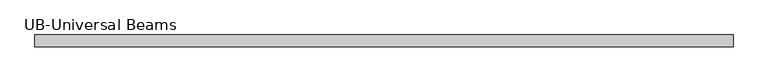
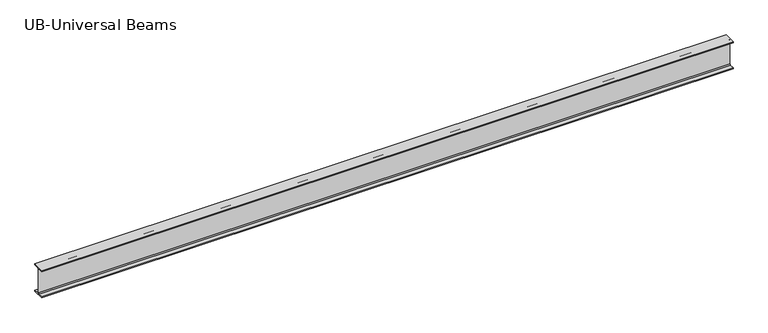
"""IFC4 building model written with IfcOpenShell, lengths in millimetres: beam geometry."""

from ifc_helpers import new_model, si_unit, point, frame, frame_2d, origin, place, context, project, spatial, polyline, circle_curve, trimmed, segment, composite_curve, outline, extrude, source, transform, mapped, element, save


def ub_universal_beams_f823aa85(model_context):
    return source(origin(), model_context, "Body", "SweptSolid", [
        extrude(outline(composite_curve([segment(polyline([(61.7, -141.5), (61.7, -152.2), (-61.7, -152.2), (-61.7, -141.5), (-12.45, -141.5)]), True, "CONTINUOUS"), segment(trimmed(circle_curve(frame_2d((-12.45, -132.6)), 8.9), [point((-12.45, -141.5))], [point((-3.55, -132.6))], True, "CARTESIAN"), True, "CONTINUOUS"), segment(polyline([(-3.55, -132.6), (-3.55, 132.6)]), True, "CONTINUOUS"), segment(trimmed(circle_curve(frame_2d((-12.45, 132.6)), 8.9), [point((-3.55, 132.6))], [point((-12.45, 141.5))], True, "CARTESIAN"), True, "CONTINUOUS"), segment(polyline([(-12.45, 141.5), (-61.7, 141.5), (-61.7, 152.2), (61.7, 152.2), (61.7, 141.5), (12.45, 141.5)]), True, "CONTINUOUS"), segment(trimmed(circle_curve(frame_2d((12.45, 132.6)), 8.9), [point((12.45, 141.5))], [point((3.55, 132.6))], True, "CARTESIAN"), True, "CONTINUOUS"), segment(polyline([(3.55, 132.6), (3.55, -132.6)]), True, "CONTINUOUS"), segment(trimmed(circle_curve(frame_2d((12.45, -132.6)), 8.9), [point((3.55, -132.6))], [point((12.45, -141.5))], True, "CARTESIAN"), True, "CONTINUOUS"), segment(polyline([(12.45, -141.5), (61.7, -141.5)]), True, "CONTINUOUS")], self_intersect=False)), frame((-3660.4, 0.0, 0.0), z_axis=(1.0, 0.0, 0.0), x_axis=(0.0, 1.0, 0.0)), (0.0, 0.0, 1.0), 7320.8),
    ])


if __name__ == "__main__":
    model = new_model("IFC4")
    model_context = context("Model", 3, world=origin())
    ifc_project = project(units=[si_unit("LENGTHUNIT", "METRE", prefix="MILLI")], contexts=[model_context])
    site = spatial("IfcSite", under=ifc_project)
    building = spatial("IfcBuilding", under=site)
    placement = place(None, origin())
    ub_universal_beams_shape = ub_universal_beams_f823aa85(model_context)
    element("IfcBeam", 1, ObjectType="UB-Universal Beams : UB 12\" x 5\" x 1 1/2\"", at=placement, inside=building, context=model_context, shape_type="MappedRepresentation", body=[
        mapped(ub_universal_beams_shape, transform((0.0, 0.0, 0.0), x_axis=(1.0, 0.0, 0.0), y_axis=(0.0, 1.0, 0.0), z_axis=(0.0, 0.0, 1.0))),
    ])
    save(model, "model.ifc")
